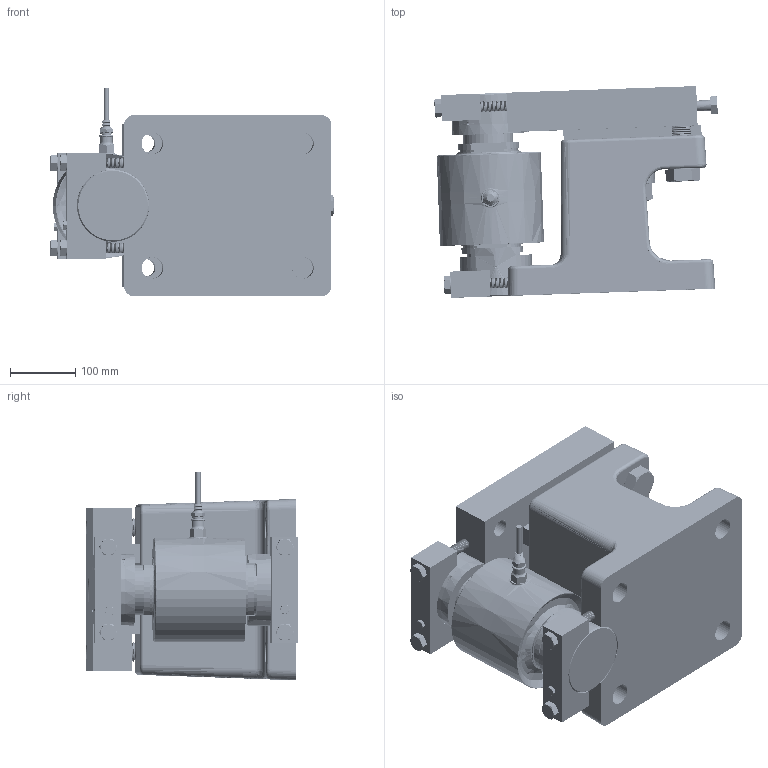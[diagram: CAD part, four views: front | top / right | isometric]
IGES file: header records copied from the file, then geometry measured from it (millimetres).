
Start section: SolidWorks IGES file using analytic representation for surfaces
Global section: file name: C:\0_Work\SolidWorks\0_Load Points\LPRC03 Series\330K\Load_Point_HILPRC03_330KLB.IGS; native system: SolidWorks 2020; preprocessor: SolidWorks 2020; author: vach01; date: 220601.144215; units: millimetre
Bounding box: 432.82 x 323.25 x 318.13 mm (x, y, z)
Surface area: 1210008.9 mm2 (no closed solid volume)
Topology: 0 solids, 0 shells, 2690 faces, 19423 edges, 19405 vertices
Faces by surface type: revolution 2355, bspline 335
